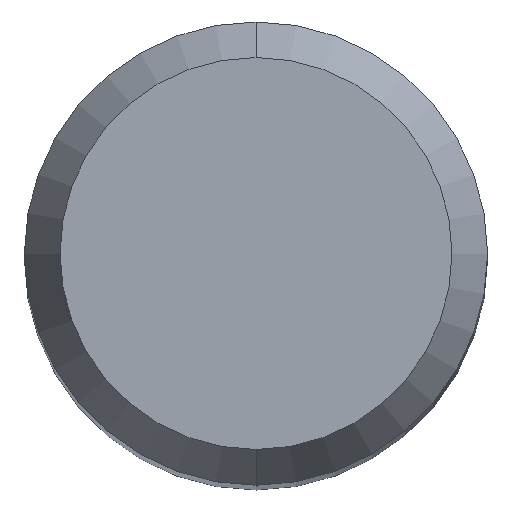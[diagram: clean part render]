
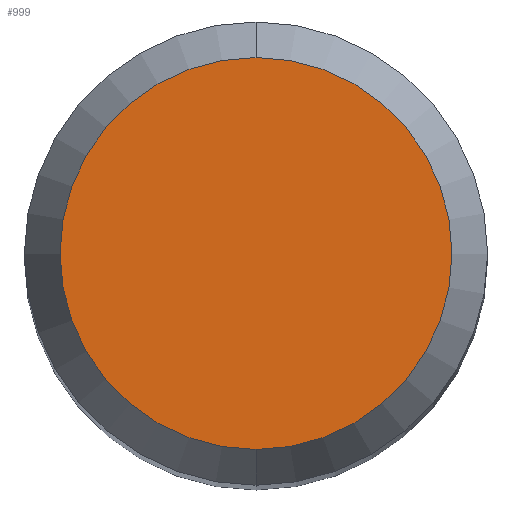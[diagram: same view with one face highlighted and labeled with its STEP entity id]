
A CAD part, top view. The second image highlights one B-rep face of the part: STEP entity #999.
In plain terms, the highlighted planar face has unit normal (0, 0, 1).
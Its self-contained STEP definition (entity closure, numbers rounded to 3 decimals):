
#521=EDGE_CURVE('',#561,#1009,#1441,.T.);
#561=VERTEX_POINT('',#1482);
#695=EDGE_CURVE('',#1009,#561,#1631,.T.);
#999=ADVANCED_FACE('',(#1960),#1961,.T.);
#1009=VERTEX_POINT('',#1971);
#1441=CIRCLE('',#3045,2.538);
#1482=CARTESIAN_POINT('',(0.,-2.538,0.0));
#1631=CIRCLE('',#4568,2.538);
#1960=FACE_OUTER_BOUND('',#7304,.T.);
#1961=PLANE('',#7305);
#1971=CARTESIAN_POINT('',(0.0,2.538,0.0));
#3045=AXIS2_PLACEMENT_3D('',#10319,#10320,#10321);
#4568=AXIS2_PLACEMENT_3D('',#10510,#10511,#10512);
#7304=EDGE_LOOP('',(#10809,#10810));
#7305=AXIS2_PLACEMENT_3D('',#10811,#10812,#10813);
#10319=CARTESIAN_POINT('',(0.0,0.0,0.0));
#10320=DIRECTION('',(0.0,0.0,-1.0));
#10321=DIRECTION('',(0.0,1.0,0.0));
#10510=CARTESIAN_POINT('',(0.0,0.0,0.0));
#10511=DIRECTION('',(0.0,0.0,-1.0));
#10512=DIRECTION('',(0.0,1.0,0.0));
#10809=ORIENTED_EDGE('',*,*,#695,.F.);
#10810=ORIENTED_EDGE('',*,*,#521,.F.);
#10811=CARTESIAN_POINT('',(0.0,1.269,0.0));
#10812=DIRECTION('',(-0.0,0.0,1.0));
#10813=DIRECTION('',(0.0,-1.0,0.0));
